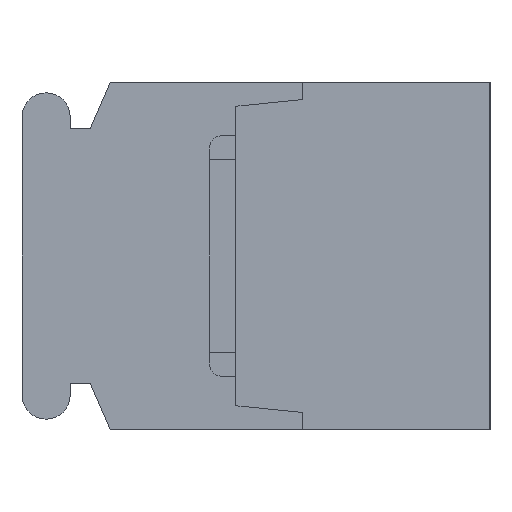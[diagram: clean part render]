
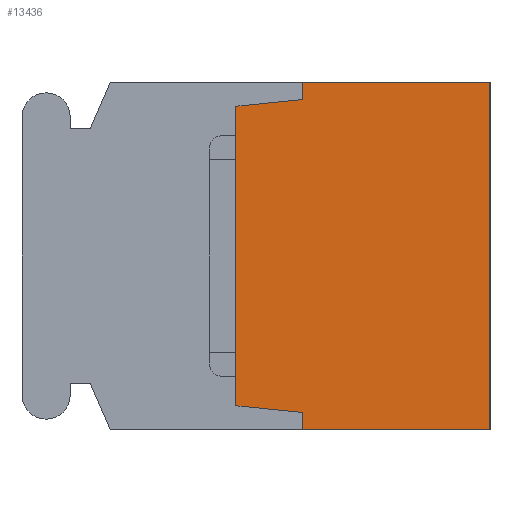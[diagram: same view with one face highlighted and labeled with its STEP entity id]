
A CAD part, left-side view. The second image highlights one B-rep face of the part: STEP entity #13436.
In plain terms, the highlighted planar face has unit normal (-1, 0, 0).
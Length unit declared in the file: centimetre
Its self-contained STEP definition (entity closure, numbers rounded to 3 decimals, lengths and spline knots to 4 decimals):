
#1140=VECTOR('',#14575,1.);
#1157=VECTOR('',#14593,1.);
#1203=VECTOR('',#14655,1.);
#1640=VECTOR('',#15760,1.);
#1641=VECTOR('',#15761,1.);
#1642=VECTOR('',#15762,1.);
#1643=VECTOR('',#15763,1.);
#1644=VECTOR('',#15764,1.);
#2592=LINE('',#18279,#1140);
#2609=LINE('',#18312,#1157);
#2655=LINE('',#18407,#1203);
#3092=LINE('',#19854,#1640);
#3093=LINE('',#19856,#1641);
#3094=LINE('',#19858,#1642);
#3095=LINE('',#19860,#1643);
#3096=LINE('',#19862,#1644);
#3879=PLANE('',#22054);
#4506=VERTEX_POINT('',#18276);
#4507=VERTEX_POINT('',#18278);
#4523=VERTEX_POINT('',#18313);
#4559=VERTEX_POINT('',#18406);
#4976=VERTEX_POINT('',#19855);
#4977=VERTEX_POINT('',#19857);
#4978=VERTEX_POINT('',#19859);
#4979=VERTEX_POINT('',#19861);
#6220=EDGE_CURVE('',#4507,#4506,#2592,.T.);
#6237=EDGE_CURVE('',#4506,#4523,#2609,.T.);
#6285=EDGE_CURVE('',#4559,#4507,#2655,.T.);
#6926=EDGE_CURVE('',#4976,#4559,#3092,.T.);
#6927=EDGE_CURVE('',#4977,#4976,#3093,.T.);
#6928=EDGE_CURVE('',#4978,#4977,#3094,.T.);
#6929=EDGE_CURVE('',#4979,#4978,#3095,.T.);
#6930=EDGE_CURVE('',#4523,#4979,#3096,.T.);
#10268=ORIENTED_EDGE('',*,*,#6220,.F.);
#10269=ORIENTED_EDGE('',*,*,#6285,.F.);
#10270=ORIENTED_EDGE('',*,*,#6926,.F.);
#10271=ORIENTED_EDGE('',*,*,#6927,.F.);
#10272=ORIENTED_EDGE('',*,*,#6928,.F.);
#10273=ORIENTED_EDGE('',*,*,#6929,.F.);
#10274=ORIENTED_EDGE('',*,*,#6930,.F.);
#10275=ORIENTED_EDGE('',*,*,#6237,.F.);
#11886=EDGE_LOOP('',(#10268,#10269,#10270,#10271,#10272,#10273,#10274,#10275));
#12696=FACE_BOUND('',#11886,.T.);
#13436=ADVANCED_FACE('',(#12696),#3879,.F.);
#14575=DIRECTION('',(0.,0.,-1.));
#14593=DIRECTION('',(0.,1.,0.));
#14655=DIRECTION('',(0.,-1.,0.));
#15759=DIRECTION('',(1.,0.,0.));
#15760=DIRECTION('',(0.,0.,1.));
#15761=DIRECTION('',(0.,-0.995,0.1));
#15762=DIRECTION('',(0.,0.,1.));
#15763=DIRECTION('',(0.,0.995,0.1));
#15764=DIRECTION('',(0.,0.,1.));
#18276=CARTESIAN_POINT('',(-1.84,0.,-0.65));
#18278=CARTESIAN_POINT('',(-1.84,0.,0.65));
#18279=CARTESIAN_POINT('',(-1.84,0.,0.65));
#18312=CARTESIAN_POINT('',(-1.84,0.,-0.65));
#18313=CARTESIAN_POINT('',(-1.84,0.7,-0.65));
#18406=CARTESIAN_POINT('',(-1.84,0.7,0.65));
#18407=CARTESIAN_POINT('',(-1.84,0.7,0.65));
#19853=CARTESIAN_POINT('',(-1.84,0.4626,0.));
#19854=CARTESIAN_POINT('',(-1.84,0.7,0.585));
#19855=CARTESIAN_POINT('',(-1.84,0.7,0.585));
#19856=CARTESIAN_POINT('',(-1.84,0.95,0.56));
#19857=CARTESIAN_POINT('',(-1.84,0.95,0.56));
#19858=CARTESIAN_POINT('',(-1.84,0.95,-0.56));
#19859=CARTESIAN_POINT('',(-1.84,0.95,-0.56));
#19860=CARTESIAN_POINT('',(-1.84,0.7,-0.585));
#19861=CARTESIAN_POINT('',(-1.84,0.7,-0.585));
#19862=CARTESIAN_POINT('',(-1.84,0.7,-0.65));
#22054=AXIS2_PLACEMENT_3D('',#19853,#15759,$);
